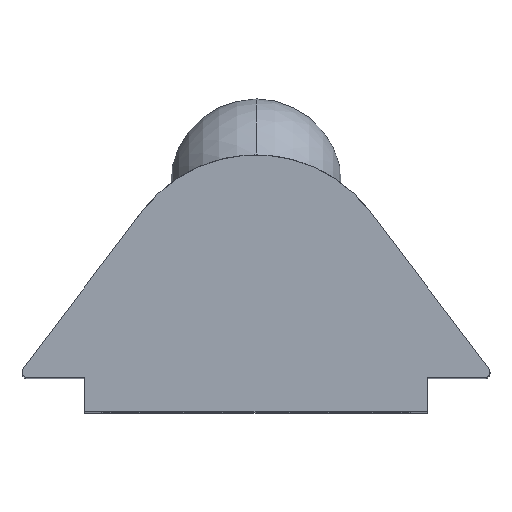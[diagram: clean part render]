
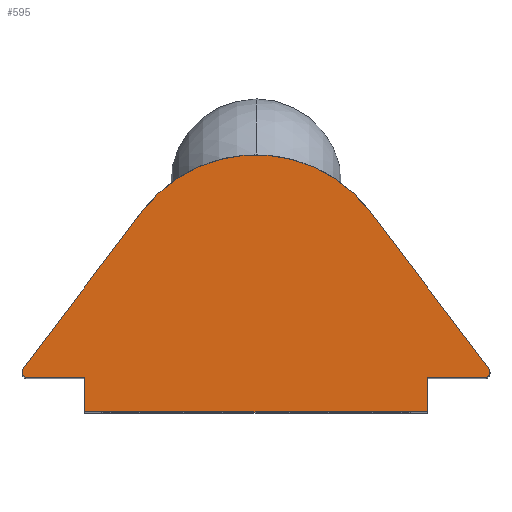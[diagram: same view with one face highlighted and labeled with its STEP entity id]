
A CAD part, top view. The second image highlights one B-rep face of the part: STEP entity #595.
In plain terms, the highlighted planar face has unit normal (0, 0, 1).
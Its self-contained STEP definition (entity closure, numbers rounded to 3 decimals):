
#45 = CARTESIAN_POINT ( 'NONE',  ( 0., 0., 6.75 ) ) ;
#64 = VECTOR ( 'NONE', #1815, 1000. ) ;
#143 = AXIS2_PLACEMENT_3D ( 'NONE', #560, #1560, #336 ) ;
#164 = VECTOR ( 'NONE', #1391, 1000. ) ;
#185 = VECTOR ( 'NONE', #1019, 1000. ) ;
#212 = VERTEX_POINT ( 'NONE', #536 ) ;
#225 = ORIENTED_EDGE ( 'NONE', *, *, #871, .T. ) ;
#249 = LINE ( 'NONE', #1787, #185 ) ;
#258 = ORIENTED_EDGE ( 'NONE', *, *, #925, .T. ) ;
#284 = DIRECTION ( 'NONE',  ( 1., 0., 0. ) ) ;
#300 = EDGE_CURVE ( 'NONE', #2592, #668, #2216, .T. ) ;
#336 = DIRECTION ( 'NONE',  ( 1., 0., 0. ) ) ;
#345 = EDGE_CURVE ( 'NONE', #1725, #1675, #2166, .T. ) ;
#423 = CARTESIAN_POINT ( 'NONE',  ( -3., 0., 6.75 ) ) ;
#441 = LINE ( 'NONE', #45, #1077 ) ;
#492 = PLANE ( 'NONE',  #2009 ) ;
#536 = CARTESIAN_POINT ( 'NONE',  ( -3., 0., 6.75 ) ) ;
#549 = ORIENTED_EDGE ( 'NONE', *, *, #941, .F. ) ;
#560 = CARTESIAN_POINT ( 'NONE',  ( -3.999, 0.7, 6.75 ) ) ;
#578 = DIRECTION ( 'NONE',  ( 0., 0., 1. ) ) ;
#595 = ADVANCED_FACE ( 'NONE', ( #1818 ), #492, .T. ) ;
#614 = CIRCLE ( 'NONE', #1368, 2.509 ) ;
#621 = CARTESIAN_POINT ( 'NONE',  ( -3., 0.6, 6.75 ) ) ;
#643 = VECTOR ( 'NONE', #284, 1000. ) ;
#661 = CARTESIAN_POINT ( 'NONE',  ( -4.079, 0.76, 6.75 ) ) ;
#668 = VERTEX_POINT ( 'NONE', #1495 ) ;
#681 = ORIENTED_EDGE ( 'NONE', *, *, #345, .T. ) ;
#697 = CARTESIAN_POINT ( 'NONE',  ( 0., 0.6, 6.75 ) ) ;
#723 = CARTESIAN_POINT ( 'NONE',  ( -4.099, 0.7, 6.75 ) ) ;
#773 = LINE ( 'NONE', #1305, #830 ) ;
#797 = DIRECTION ( 'NONE',  ( 0., 0., 1. ) ) ;
#803 = CARTESIAN_POINT ( 'NONE',  ( 2.958, 2.24, 6.75 ) ) ;
#829 = VERTEX_POINT ( 'NONE', #1993 ) ;
#830 = VECTOR ( 'NONE', #2296, 1000. ) ;
#832 = LINE ( 'NONE', #423, #1599 ) ;
#862 = ORIENTED_EDGE ( 'NONE', *, *, #1829, .T. ) ;
#871 = EDGE_CURVE ( 'NONE', #1510, #2242, #249, .T. ) ;
#907 = CARTESIAN_POINT ( 'NONE',  ( 3., 0.6, 6.75 ) ) ;
#920 = CARTESIAN_POINT ( 'NONE',  ( 4.079, 0.76, 6.75 ) ) ;
#924 = CIRCLE ( 'NONE', #143, 0.1 ) ;
#925 = EDGE_CURVE ( 'NONE', #2231, #668, #1939, .T. ) ;
#941 = EDGE_CURVE ( 'NONE', #212, #2592, #832, .T. ) ;
#1019 = DIRECTION ( 'NONE',  ( 0., 1., 0. ) ) ;
#1030 = ORIENTED_EDGE ( 'NONE', *, *, #1547, .F. ) ;
#1059 = ORIENTED_EDGE ( 'NONE', *, *, #1166, .T. ) ;
#1077 = VECTOR ( 'NONE', #1476, 1000. ) ;
#1085 = DIRECTION ( 'NONE',  ( 0., 0., 1. ) ) ;
#1115 = LINE ( 'NONE', #697, #643 ) ;
#1145 = ORIENTED_EDGE ( 'NONE', *, *, #1842, .T. ) ;
#1166 = EDGE_CURVE ( 'NONE', #829, #1725, #1184, .T. ) ;
#1184 = CIRCLE ( 'NONE', #2637, 0.1 ) ;
#1205 = DIRECTION ( 'NONE',  ( 1., 0., 0. ) ) ;
#1305 = CARTESIAN_POINT ( 'NONE',  ( -2.958, 2.24, 6.75 ) ) ;
#1368 = AXIS2_PLACEMENT_3D ( 'NONE', #2365, #578, #1988 ) ;
#1391 = DIRECTION ( 'NONE',  ( -1., 0., 0. ) ) ;
#1450 = EDGE_CURVE ( 'NONE', #1510, #212, #441, .T. ) ;
#1471 = VERTEX_POINT ( 'NONE', #2040 ) ;
#1476 = DIRECTION ( 'NONE',  ( -1., 0., 0. ) ) ;
#1495 = CARTESIAN_POINT ( 'NONE',  ( -3.999, 0.6, 6.75 ) ) ;
#1502 = VERTEX_POINT ( 'NONE', #661 ) ;
#1510 = VERTEX_POINT ( 'NONE', #2046 ) ;
#1520 = ORIENTED_EDGE ( 'NONE', *, *, #2147, .T. ) ;
#1547 = EDGE_CURVE ( 'NONE', #1502, #1471, #773, .T. ) ;
#1560 = DIRECTION ( 'NONE',  ( 0., 0., 1. ) ) ;
#1599 = VECTOR ( 'NONE', #1643, 1000. ) ;
#1643 = DIRECTION ( 'NONE',  ( 0., 1., 0. ) ) ;
#1675 = VERTEX_POINT ( 'NONE', #2546 ) ;
#1700 = ORIENTED_EDGE ( 'NONE', *, *, #300, .F. ) ;
#1702 = DIRECTION ( 'NONE',  ( 0., 0., 1. ) ) ;
#1725 = VERTEX_POINT ( 'NONE', #920 ) ;
#1741 = DIRECTION ( 'NONE',  ( 1., 0., 0. ) ) ;
#1787 = CARTESIAN_POINT ( 'NONE',  ( 3., 0., 6.75 ) ) ;
#1793 = CARTESIAN_POINT ( 'NONE',  ( 0., 0.6, 6.75 ) ) ;
#1815 = DIRECTION ( 'NONE',  ( -0.604, 0.797, 0. ) ) ;
#1818 = FACE_OUTER_BOUND ( 'NONE', #2233, .T. ) ;
#1829 = EDGE_CURVE ( 'NONE', #1502, #2231, #924, .T. ) ;
#1842 = EDGE_CURVE ( 'NONE', #1675, #1471, #614, .T. ) ;
#1907 = DIRECTION ( 'NONE',  ( 1., 0., 0. ) ) ;
#1939 = CIRCLE ( 'NONE', #2055, 0.1 ) ;
#1988 = DIRECTION ( 'NONE',  ( 1., 0., 0. ) ) ;
#1993 = CARTESIAN_POINT ( 'NONE',  ( 3.999, 0.6, 6.75 ) ) ;
#2009 = AXIS2_PLACEMENT_3D ( 'NONE', #2117, #1702, #1907 ) ;
#2035 = CARTESIAN_POINT ( 'NONE',  ( -3.999, 0.7, 6.75 ) ) ;
#2040 = CARTESIAN_POINT ( 'NONE',  ( -2., 3.506, 6.75 ) ) ;
#2046 = CARTESIAN_POINT ( 'NONE',  ( 3., 0., 6.75 ) ) ;
#2055 = AXIS2_PLACEMENT_3D ( 'NONE', #2035, #797, #1205 ) ;
#2117 = CARTESIAN_POINT ( 'NONE',  ( 0., 0., 6.75 ) ) ;
#2124 = CARTESIAN_POINT ( 'NONE',  ( 3.999, 0.7, 6.75 ) ) ;
#2147 = EDGE_CURVE ( 'NONE', #2242, #829, #1115, .T. ) ;
#2166 = LINE ( 'NONE', #803, #64 ) ;
#2216 = LINE ( 'NONE', #1793, #164 ) ;
#2231 = VERTEX_POINT ( 'NONE', #723 ) ;
#2233 = EDGE_LOOP ( 'NONE', ( #1030, #862, #258, #1700, #549, #2377, #225, #1520, #1059, #681, #1145 ) ) ;
#2242 = VERTEX_POINT ( 'NONE', #907 ) ;
#2296 = DIRECTION ( 'NONE',  ( 0.604, 0.797, 0. ) ) ;
#2365 = CARTESIAN_POINT ( 'NONE',  ( 0., 1.991, 6.75 ) ) ;
#2377 = ORIENTED_EDGE ( 'NONE', *, *, #1450, .F. ) ;
#2546 = CARTESIAN_POINT ( 'NONE',  ( 2., 3.506, 6.75 ) ) ;
#2592 = VERTEX_POINT ( 'NONE', #621 ) ;
#2637 = AXIS2_PLACEMENT_3D ( 'NONE', #2124, #1085, #1741 ) ;
